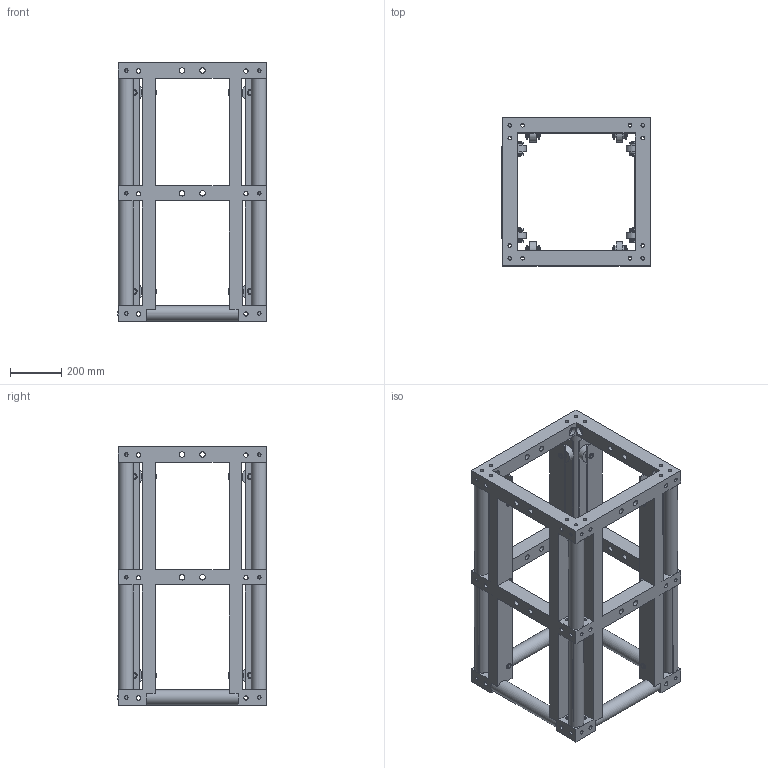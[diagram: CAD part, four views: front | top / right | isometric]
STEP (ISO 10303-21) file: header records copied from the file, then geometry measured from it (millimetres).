
FILE_DESCRIPTION(/* description */ (''),/* implementation_level */ '2;1');
FILE_NAME(/* name */ 'M:\Symbolen_NIEUW\STP\Sleeveblocks\111820014.stp',/* time_stamp */ '2015-06-02T12:57:08+02:00',/* author */ ('Stephan'),/* organization */ (''),/* preprocessor_version */ 'ST-DEVELOPER v15.6',/* originating_system */ 'Autodesk Inventor 2015',/* authorisation */ '');
FILE_SCHEMA (('AUTOMOTIVE_DESIGN { 1 0 10303 214 3 1 1 }'));
Length unit declared in the file: millimetre
Products named in the file (1): 160024356
Bounding box: 581.92 x 581.92 x 1010 mm (x, y, z)
Volume: 33247432.6 mm3; surface area: 6014121.1 mm2
Topology: 17 solids, 33 shells, 1217 faces, 3089 edges, 1989 vertices
Faces by surface type: plane 647, cylinder 554, cone 16
Full cylindrical faces by diameter (mm): 13.84 x144, 16 x64, 16.2 x32, 17 x24, 21.5 x16, 22.38 x16, 22.5 x4, 23.691 x32, 30 x32, 34.5 x32, 36 x24, 60 x12, 65 x16
Entity records: 39353 total; most frequent: CARTESIAN_POINT 10824, DIRECTION 5584, ORIENTED_EDGE 4744, EDGE_CURVE 2372, AXIS2_PLACEMENT_3D 2260, EDGE_LOOP 2154, VERTEX_POINT 1764, STYLED_ITEM 1232
